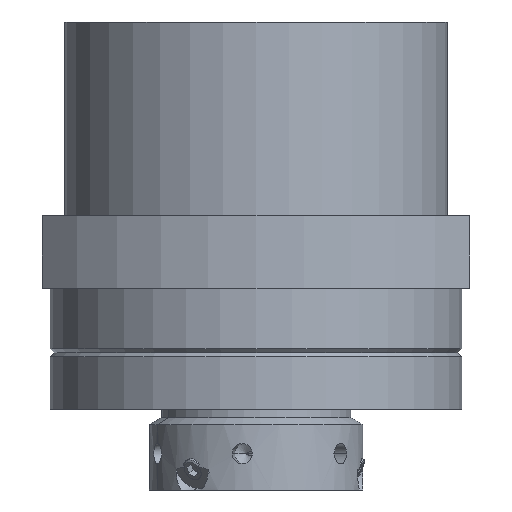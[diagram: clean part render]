
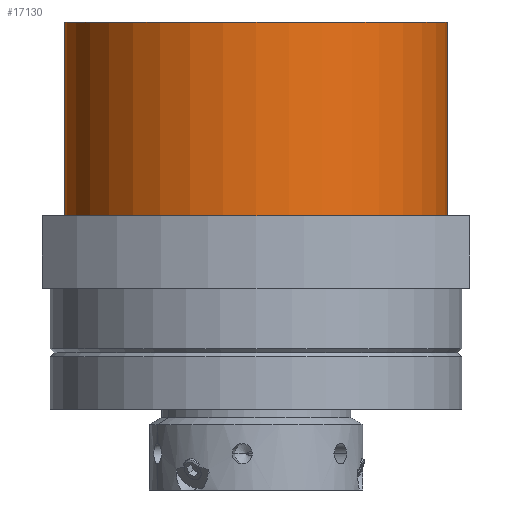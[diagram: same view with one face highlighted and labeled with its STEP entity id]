
A CAD part, front view. The second image highlights one B-rep face of the part: STEP entity #17130.
In plain terms, the highlighted cylindrical face has radius 47.5 mm (diameter 95 mm), a partial arc.
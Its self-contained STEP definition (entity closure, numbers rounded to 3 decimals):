
#882 = CIRCLE ( 'NONE', #12487, 47.5 ) ;
#1053 = ORIENTED_EDGE ( 'NONE', *, *, #9315, .T. ) ;
#2048 = LINE ( 'NONE', #9031, #18897 ) ;
#2492 = DIRECTION ( 'NONE',  ( 0., 0., -1. ) ) ;
#2718 = CYLINDRICAL_SURFACE ( 'NONE', #7453, 47.5 ) ;
#2901 = VERTEX_POINT ( 'NONE', #18100 ) ;
#3046 = CIRCLE ( 'NONE', #21836, 47.5 ) ;
#6893 = FACE_OUTER_BOUND ( 'NONE', #13852, .T. ) ;
#7453 = AXIS2_PLACEMENT_3D ( 'NONE', #12914, #15106, #8843 ) ;
#8843 = DIRECTION ( 'NONE',  ( -1., 0., 0. ) ) ;
#8982 = DIRECTION ( 'NONE',  ( 1., 0., 0. ) ) ;
#9031 = CARTESIAN_POINT ( 'NONE',  ( 47.5, 0., 82. ) ) ;
#9315 = EDGE_CURVE ( 'NONE', #19695, #2901, #15220, .T. ) ;
#12468 = VECTOR ( 'NONE', #14820, 1000. ) ;
#12487 = AXIS2_PLACEMENT_3D ( 'NONE', #20487, #27070, #13694 ) ;
#12583 = VERTEX_POINT ( 'NONE', #24794 ) ;
#12606 = CARTESIAN_POINT ( 'NONE',  ( -47.5, 0., 82. ) ) ;
#12914 = CARTESIAN_POINT ( 'NONE',  ( 0., 0., 82. ) ) ;
#13694 = DIRECTION ( 'NONE',  ( 1., 0., 0. ) ) ;
#13769 = EDGE_CURVE ( 'NONE', #19695, #23152, #882, .T. ) ;
#13852 = EDGE_LOOP ( 'NONE', ( #24674, #13919, #1053, #19063 ) ) ;
#13919 = ORIENTED_EDGE ( 'NONE', *, *, #13769, .F. ) ;
#14820 = DIRECTION ( 'NONE',  ( 0., 0., -1. ) ) ;
#15106 = DIRECTION ( 'NONE',  ( 0., 0., -1. ) ) ;
#15220 = LINE ( 'NONE', #12606, #12468 ) ;
#17082 = CARTESIAN_POINT ( 'NONE',  ( 47.5, 0., 82. ) ) ;
#17130 = ADVANCED_FACE ( 'NONE', ( #6893 ), #2718, .T. ) ;
#17172 = EDGE_CURVE ( 'NONE', #23152, #12583, #2048, .T. ) ;
#18100 = CARTESIAN_POINT ( 'NONE',  ( -47.5, 0., 34. ) ) ;
#18897 = VECTOR ( 'NONE', #2492, 1000. ) ;
#19063 = ORIENTED_EDGE ( 'NONE', *, *, #26390, .T. ) ;
#19695 = VERTEX_POINT ( 'NONE', #25560 ) ;
#20487 = CARTESIAN_POINT ( 'NONE',  ( 0., 0., 82. ) ) ;
#21836 = AXIS2_PLACEMENT_3D ( 'NONE', #22036, #22138, #8982 ) ;
#22036 = CARTESIAN_POINT ( 'NONE',  ( 0., 0., 34. ) ) ;
#22138 = DIRECTION ( 'NONE',  ( 0., 0., 1. ) ) ;
#23152 = VERTEX_POINT ( 'NONE', #17082 ) ;
#24674 = ORIENTED_EDGE ( 'NONE', *, *, #17172, .F. ) ;
#24794 = CARTESIAN_POINT ( 'NONE',  ( 47.5, 0., 34. ) ) ;
#25560 = CARTESIAN_POINT ( 'NONE',  ( -47.5, 0., 82. ) ) ;
#26390 = EDGE_CURVE ( 'NONE', #2901, #12583, #3046, .T. ) ;
#27070 = DIRECTION ( 'NONE',  ( 0., 0., 1. ) ) ;
